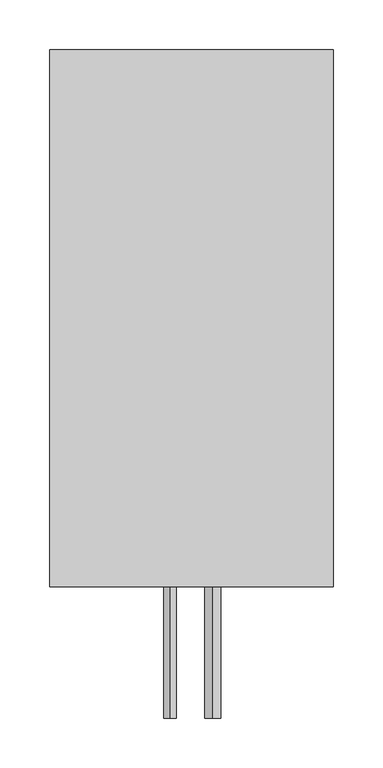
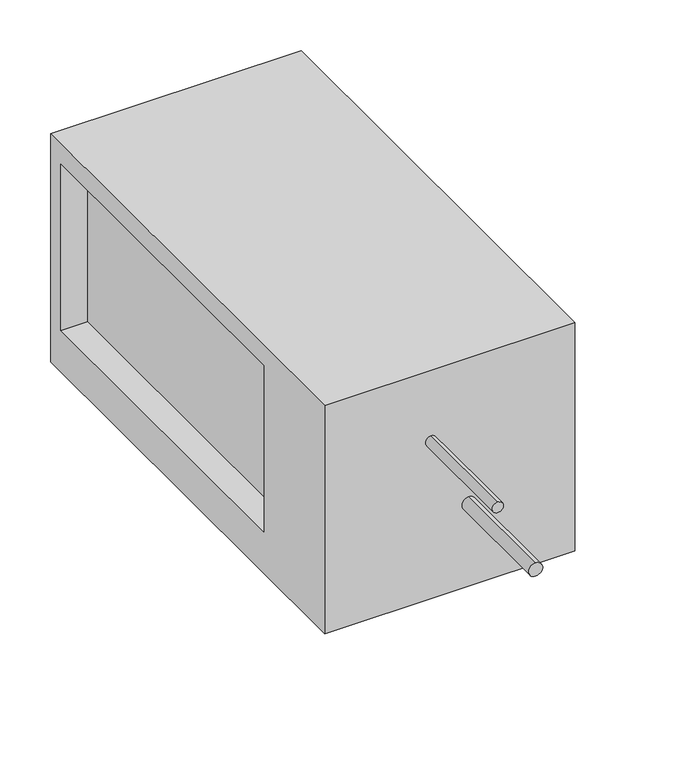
"""IFC4 building model written with IfcOpenShell, lengths in millimetres: proxy geometry, СВ_ВоздухоохладительФреоновый_КанальныйПрямоугольный_200-1000_SPC-F : SPC-F-400x200-R."""

from ifc_helpers import new_model, si_unit, point, frame, frame_2d, origin, place, context, project, spatial, polyline, circle_curve, trimmed, segment, composite_curve, outline, extrude, source, transform, mapped, element, save


def mechanical_equipment_b4f86dda(model_context):
    return source(origin(), model_context, "Body", "SweptSolid", [
        extrude(outline(polyline([(-320.0, -150.0), (-320.0, 125.0), (220.0, 125.0), (220.0, -150.0), (-320.0, -150.0)]), holes=[polyline([(-200.0, 100.0), (-200.0, -100.0), (200.0, -100.0), (200.0, 100.0), (-200.0, 100.0)])]), frame((-142.5, 0.0, 0.0), z_axis=(1.0, 0.0, 0.0), x_axis=(0.0, 1.0, 0.0)), (0.0, 0.0, 1.0), 285.0),
        extrude(outline(composite_curve([segment(trimmed(circle_curve(frame_2d((-50.0, 21.5)), 7.95), [point((-42.05, 21.5))], [point((-57.95, 21.5))], False, "CARTESIAN"), True, "CONTINUOUS"), segment(trimmed(circle_curve(frame_2d((-50.0, 21.5)), 7.95), [point((-57.95, 21.5))], [point((-42.05, 21.5))], False, "CARTESIAN"), True, "CONTINUOUS")], self_intersect=False)), frame((0.0, -452.0, 0.0), z_axis=(0.0, 1.0, 0.0), x_axis=(0.0, 0.0, 1.0)), (0.0, 0.0, 1.0), 132.0),
        extrude(outline(composite_curve([segment(trimmed(circle_curve(frame_2d((40.0, -21.5)), 6.35), [point((46.35, -21.5))], [point((33.65, -21.5))], False, "CARTESIAN"), True, "CONTINUOUS"), segment(trimmed(circle_curve(frame_2d((40.0, -21.5)), 6.35), [point((33.65, -21.5))], [point((46.35, -21.5))], False, "CARTESIAN"), True, "CONTINUOUS")], self_intersect=False)), frame((0.0, -452.0, 0.0), z_axis=(0.0, 1.0, 0.0), x_axis=(0.0, 0.0, 1.0)), (0.0, 0.0, 1.0), 132.0),
        extrude(outline(composite_curve([segment(trimmed(circle_curve(frame_2d((0.0, -280.0)), 11.0), [point((-11.0, -280.0))], [point((11.0, -280.0))], False, "CARTESIAN"), True, "CONTINUOUS"), segment(trimmed(circle_curve(frame_2d((0.0, -280.0)), 11.0), [point((11.0, -280.0))], [point((-11.0, -280.0))], False, "CARTESIAN"), True, "CONTINUOUS")], self_intersect=False)), frame((0.0, 0.0, -170.0), z_axis=(0.0, 0.0, 1.0), x_axis=(1.0, 0.0, 0.0)), (0.0, 0.0, 1.0), 20.0),
        extrude(outline(polyline([(112.5, 200.0), (112.5, -200.0), (-112.5, -200.0), (-112.5, 200.0), (112.5, 200.0)])), frame((0.0, 0.0, -100.0), z_axis=(0.0, 0.0, 1.0), x_axis=(1.0, 0.0, 0.0)), (0.0, 0.0, 1.0), 200.0),
    ])


if __name__ == "__main__":
    model = new_model("IFC4")
    model_context = context("Model", 3, world=origin())
    ifc_project = project(units=[si_unit("LENGTHUNIT", "METRE", prefix="MILLI")], contexts=[model_context])
    site = spatial("IfcSite", under=ifc_project)
    building = spatial("IfcBuilding", under=site)
    placement = place(None, origin())
    mechanical_equipment_shape = mechanical_equipment_b4f86dda(model_context)
    element("IfcBuildingElementProxy", 1, Name="СВ_ВоздухоохладительФреоновый_КанальныйПрямоугольный_200-1000_SPC-F : SPC-F-400x200-R", ObjectType="СВ_ВоздухоохладительФреоновый_КанальныйПрямоугольный_200-1000_SPC-F : SPC-F-400x200-R", at=placement, inside=building, context=model_context, shape_type="MappedRepresentation", body=[
        mapped(mechanical_equipment_shape, transform((0.0, 0.0, 0.0), x_axis=(1.0, 0.0, 0.0), y_axis=(0.0, 1.0, 0.0), z_axis=(0.0, 0.0, 1.0))),
    ])
    save(model, "model.ifc")
